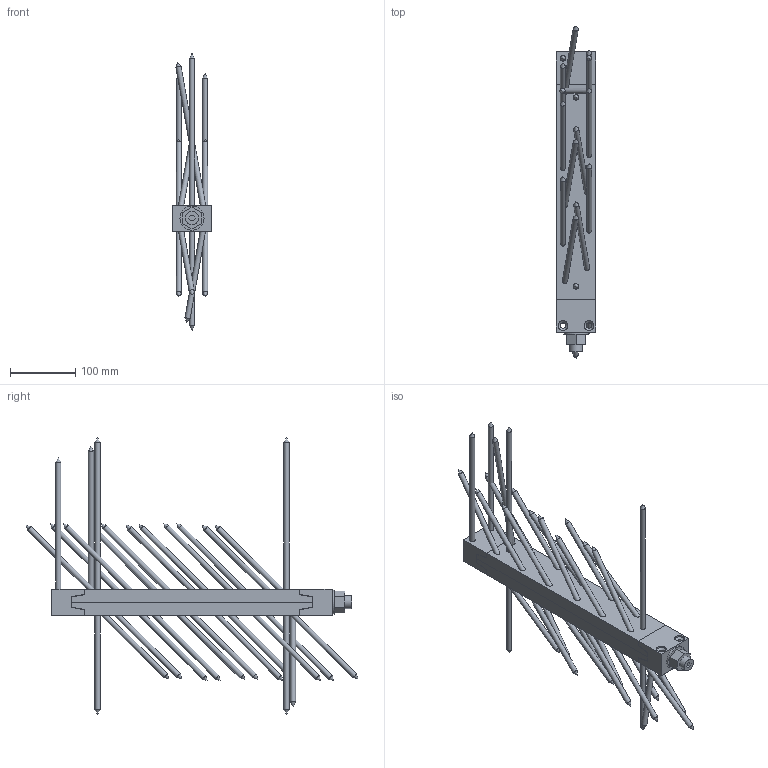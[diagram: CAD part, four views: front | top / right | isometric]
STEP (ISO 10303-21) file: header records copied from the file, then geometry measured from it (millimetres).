
FILE_DESCRIPTION(/* description */ ('Unknown'),/* implementation_level */ '2;1');
FILE_NAME(/* name */ 'MEGANT_430x60x40_Verdeckt',/* time_stamp */ '2023-11-09T15:24:23+01:00',/* author */ ('Unknown'),/* organization */ ('Unknown'),/* preprocessor_version */ 'ST-DEVELOPER v18.104',/* originating_system */ 'Solid Edge',/* authorisation */ 'Unknown');
FILE_SCHEMA (('AUTOMOTIVE_DESIGN {1 0 10303 214 3 1 1}'));
Length unit declared in the file: millimetre
Products named in the file (13): MEGANT_430x60x40_Verdeckt; Verbinderplatte_370x60x20_HT; Verbinderplatte_370x60x20; SK_Schraube_8x160; Verbinderplatte_370x60x20_NT; SK_Schraube_8x240; Spannbacke_oben_60x50x40; Spannbacke_unten_60x50x40_NT; Spannbacke_unten_60x50x40; Gewindestange_M20_L460; Mutter_M20; Beilagscheibe_M20
Assembly tree (41 placements, depth 3):
  MEGANT_430x60x40_Verdeckt
    Verbinderplatte_370x60x20_HT
      Verbinderplatte_370x60x20
      SK_Schraube_8x160  x14
    Verbinderplatte_370x60x20_NT
      Verbinderplatte_370x60x20
      SK_Schraube_8x160  x11
      SK_Schraube_8x240  x3
    Spannbacke_oben_60x50x40
    Spannbacke_unten_60x50x40_NT
      Spannbacke_unten_60x50x40
      SK_Schraube_8x240  x2
    Gewindestange_M20_L460
      Gewindestange_M20_L460
      Mutter_M20
      Beilagscheibe_M20
Bounding box: 60 x 508.97 x 424 mm (x, y, z)
Volume: 1179909.3 mm3; surface area: 361177 mm2
Topology: 37 solids, 37 shells, 395 faces, 915 edges, 573 vertices
Faces by surface type: plane 165, cylinder 138, cone 92
Full cylindrical faces by diameter (mm): 8 x30, 8.5 x32, 15 x62, 17.294 x1, 19.294 x1, 20 x1, 21 x2, 37 x1
Entity records: 5102 total; most frequent: DIRECTION 832, CARTESIAN_POINT 766, ORIENTED_EDGE 636, EDGE_CURVE 318, AXIS2_PLACEMENT_3D 310, FACE_BOUND 278, EDGE_LOOP 276, VERTEX_POINT 244
